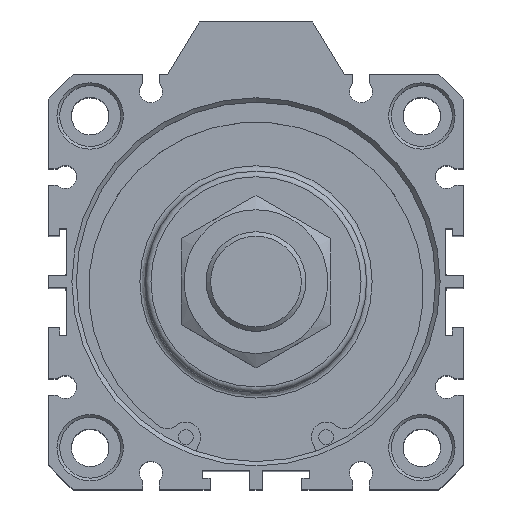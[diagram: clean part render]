
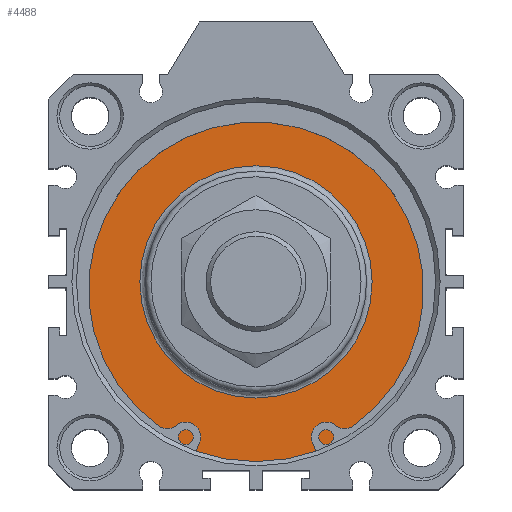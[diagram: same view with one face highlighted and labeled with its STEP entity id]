
A CAD part, top view. The second image highlights one B-rep face of the part: STEP entity #4488.
In plain terms, the highlighted planar face has unit normal (0, 0, 1).
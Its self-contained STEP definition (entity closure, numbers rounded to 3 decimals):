
#4437=CARTESIAN_POINT('',(2.99,22.555,77.3));
#4438=VERTEX_POINT('',#4437);
#4439=CARTESIAN_POINT('',(2.99,1.555,77.3));
#4440=DIRECTION('',(0.0,0.0,1.0));
#4441=DIRECTION('',(0.0,-1.0,0.0));
#4442=AXIS2_PLACEMENT_3D('',#4439,#4440,#4441);
#4443=CIRCLE('',#4442,21.);
#4444=EDGE_CURVE('',#4438,#4438,#4443,.T.);
#4469=CARTESIAN_POINT('',(2.99,27.805,77.3));
#4470=DIRECTION('',(0.0,0.0,1.0));
#4471=DIRECTION('',(1.0,0.0,0.0));
#4472=AXIS2_PLACEMENT_3D('',#4469,#4470,#4471);
#4473=PLANE('',#4472);
#4474=CARTESIAN_POINT('',(2.99,34.055,77.3));
#4475=VERTEX_POINT('',#4474);
#4476=CARTESIAN_POINT('',(2.99,1.555,77.3));
#4477=DIRECTION('',(0.0,0.0,-1.0));
#4478=DIRECTION('',(0.0,1.0,0.0));
#4479=AXIS2_PLACEMENT_3D('',#4476,#4477,#4478);
#4480=CIRCLE('',#4479,32.5);
#4481=EDGE_CURVE('',#4475,#4475,#4480,.T.);
#4482=ORIENTED_EDGE('',*,*,#4481,.F.);
#4483=EDGE_LOOP('',(#4482));
#4484=FACE_OUTER_BOUND('',#4483,.T.);
#4485=ORIENTED_EDGE('',*,*,#4444,.F.);
#4486=EDGE_LOOP('',(#4485));
#4487=FACE_BOUND('',#4486,.T.);
#4488=ADVANCED_FACE('',(#4484,#4487),#4473,.T.);
